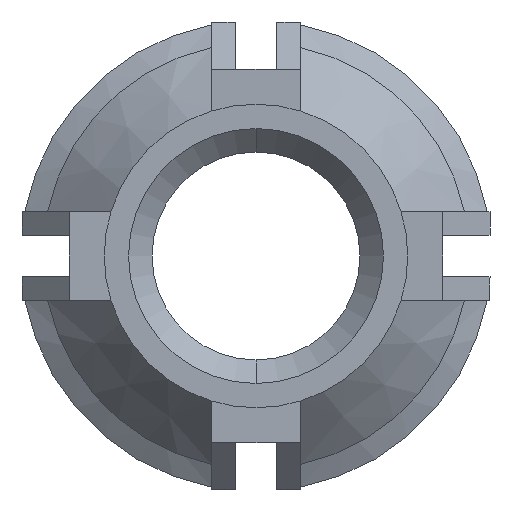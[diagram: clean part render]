
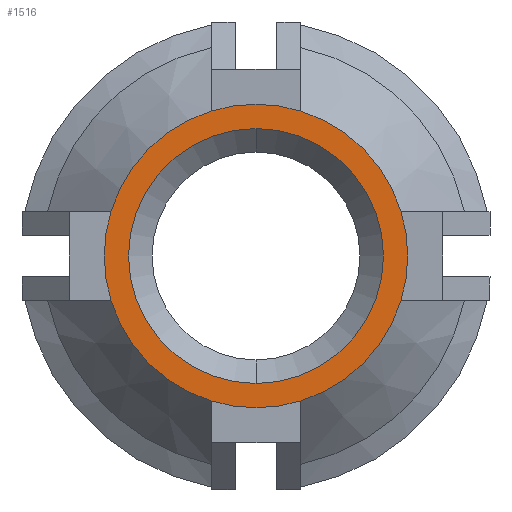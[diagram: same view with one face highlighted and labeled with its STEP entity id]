
A CAD part, front view. The second image highlights one B-rep face of the part: STEP entity #1516.
In plain terms, the highlighted planar face has unit normal (0, -1, 0).
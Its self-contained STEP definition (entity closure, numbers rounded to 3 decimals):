
#5 = DIRECTION ( 'NONE',  ( 0., -1., 0. ) ) ;
#24 = EDGE_CURVE ( 'NONE', #977, #1759, #2736, .T. ) ;
#69 = EDGE_CURVE ( 'NONE', #658, #977, #1918, .T. ) ;
#109 = DIRECTION ( 'NONE',  ( 0., 0., 1. ) ) ;
#120 = VERTEX_POINT ( 'NONE', #1002 ) ;
#137 = CARTESIAN_POINT ( 'NONE',  ( 0., -7.874, 2.15 ) ) ;
#193 = CARTESIAN_POINT ( 'NONE',  ( -2.446, -7.874, 0.75 ) ) ;
#203 = VERTEX_POINT ( 'NONE', #1003 ) ;
#213 = CARTESIAN_POINT ( 'NONE',  ( 0.75, -7.874, 2.446 ) ) ;
#220 = AXIS2_PLACEMENT_3D ( 'NONE', #2431, #3672, #3335 ) ;
#312 = CARTESIAN_POINT ( 'NONE',  ( 2.446, -7.874, 0.75 ) ) ;
#406 = AXIS2_PLACEMENT_3D ( 'NONE', #1461, #3249, #1792 ) ;
#535 = DIRECTION ( 'NONE',  ( 1., 0., 0. ) ) ;
#544 = EDGE_CURVE ( 'NONE', #1283, #1187, #1067, .T. ) ;
#568 = ORIENTED_EDGE ( 'NONE', *, *, #2275, .T. ) ;
#616 = DIRECTION ( 'NONE',  ( -1., 0., 0. ) ) ;
#637 = CARTESIAN_POINT ( 'NONE',  ( 0., -7.874, 0. ) ) ;
#658 = VERTEX_POINT ( 'NONE', #3830 ) ;
#673 = ORIENTED_EDGE ( 'NONE', *, *, #3762, .T. ) ;
#682 = EDGE_CURVE ( 'NONE', #1354, #203, #3513, .T. ) ;
#766 = PLANE ( 'NONE',  #1466 ) ;
#779 = CARTESIAN_POINT ( 'NONE',  ( 0., -7.874, 0. ) ) ;
#901 = ORIENTED_EDGE ( 'NONE', *, *, #2745, .T. ) ;
#907 = AXIS2_PLACEMENT_3D ( 'NONE', #637, #5, #616 ) ;
#947 = CARTESIAN_POINT ( 'NONE',  ( -0.75, -7.874, -2.446 ) ) ;
#977 = VERTEX_POINT ( 'NONE', #947 ) ;
#1000 = CARTESIAN_POINT ( 'NONE',  ( 0., -7.874, 0. ) ) ;
#1002 = CARTESIAN_POINT ( 'NONE',  ( 2.446, -7.874, -0.75 ) ) ;
#1003 = CARTESIAN_POINT ( 'NONE',  ( -0.75, -7.874, 2.446 ) ) ;
#1061 = CARTESIAN_POINT ( 'NONE',  ( 0., -7.874, 0. ) ) ;
#1067 = CIRCLE ( 'NONE', #1558, 2.15 ) ;
#1098 = AXIS2_PLACEMENT_3D ( 'NONE', #779, #1377, #535 ) ;
#1187 = VERTEX_POINT ( 'NONE', #137 ) ;
#1283 = VERTEX_POINT ( 'NONE', #1399 ) ;
#1335 = DIRECTION ( 'NONE',  ( 0., 0., 1. ) ) ;
#1336 = CARTESIAN_POINT ( 'NONE',  ( 0.75, -7.874, -2.446 ) ) ;
#1354 = VERTEX_POINT ( 'NONE', #213 ) ;
#1367 = FACE_OUTER_BOUND ( 'NONE', #3271, .T. ) ;
#1377 = DIRECTION ( 'NONE',  ( 0., -1., 0. ) ) ;
#1381 = DIRECTION ( 'NONE',  ( 0., -1., 0. ) ) ;
#1399 = CARTESIAN_POINT ( 'NONE',  ( 0., -7.874, -2.15 ) ) ;
#1412 = CIRCLE ( 'NONE', #1907, 2.558 ) ;
#1424 = DIRECTION ( 'NONE',  ( 0., -1., 0. ) ) ;
#1461 = CARTESIAN_POINT ( 'NONE',  ( 0., -7.874, 0. ) ) ;
#1466 = AXIS2_PLACEMENT_3D ( 'NONE', #3147, #3780, #2198 ) ;
#1471 = EDGE_CURVE ( 'NONE', #2442, #1354, #3740, .T. ) ;
#1516 = ADVANCED_FACE ( 'NONE', ( #3127, #1367 ), #766, .F. ) ;
#1536 = CIRCLE ( 'NONE', #2662, 2.15 ) ;
#1558 = AXIS2_PLACEMENT_3D ( 'NONE', #1000, #2810, #109 ) ;
#1586 = EDGE_CURVE ( 'NONE', #203, #3176, #3484, .T. ) ;
#1653 = ORIENTED_EDGE ( 'NONE', *, *, #3898, .T. ) ;
#1684 = ORIENTED_EDGE ( 'NONE', *, *, #1471, .T. ) ;
#1759 = VERTEX_POINT ( 'NONE', #1336 ) ;
#1792 = DIRECTION ( 'NONE',  ( 0., 0., -1. ) ) ;
#1814 = EDGE_LOOP ( 'NONE', ( #2573, #568 ) ) ;
#1845 = AXIS2_PLACEMENT_3D ( 'NONE', #1061, #1424, #2620 ) ;
#1907 = AXIS2_PLACEMENT_3D ( 'NONE', #3070, #2187, #1335 ) ;
#1918 = CIRCLE ( 'NONE', #220, 2.558 ) ;
#1938 = CARTESIAN_POINT ( 'NONE',  ( 0., -7.874, 0. ) ) ;
#2187 = DIRECTION ( 'NONE',  ( 0., -1., 0. ) ) ;
#2198 = DIRECTION ( 'NONE',  ( 0., 0., 1. ) ) ;
#2220 = AXIS2_PLACEMENT_3D ( 'NONE', #2755, #3038, #3365 ) ;
#2275 = EDGE_CURVE ( 'NONE', #1187, #1283, #1536, .T. ) ;
#2428 = ORIENTED_EDGE ( 'NONE', *, *, #69, .T. ) ;
#2431 = CARTESIAN_POINT ( 'NONE',  ( 0., -7.874, 0. ) ) ;
#2442 = VERTEX_POINT ( 'NONE', #312 ) ;
#2539 = DIRECTION ( 'NONE',  ( 0., 0., 1. ) ) ;
#2540 = AXIS2_PLACEMENT_3D ( 'NONE', #3465, #1381, #2539 ) ;
#2573 = ORIENTED_EDGE ( 'NONE', *, *, #544, .T. ) ;
#2620 = DIRECTION ( 'NONE',  ( 0., 0., 1. ) ) ;
#2662 = AXIS2_PLACEMENT_3D ( 'NONE', #1938, #3460, #3477 ) ;
#2736 = CIRCLE ( 'NONE', #907, 2.558 ) ;
#2745 = EDGE_CURVE ( 'NONE', #3176, #658, #3546, .T. ) ;
#2755 = CARTESIAN_POINT ( 'NONE',  ( 0., -7.874, 0. ) ) ;
#2762 = ORIENTED_EDGE ( 'NONE', *, *, #1586, .T. ) ;
#2768 = ORIENTED_EDGE ( 'NONE', *, *, #682, .T. ) ;
#2810 = DIRECTION ( 'NONE',  ( 0., 1., 0. ) ) ;
#3038 = DIRECTION ( 'NONE',  ( 0., -1., 0. ) ) ;
#3070 = CARTESIAN_POINT ( 'NONE',  ( 0., -7.874, 0. ) ) ;
#3127 = FACE_BOUND ( 'NONE', #1814, .T. ) ;
#3147 = CARTESIAN_POINT ( 'NONE',  ( 0., -7.874, 0. ) ) ;
#3154 = ORIENTED_EDGE ( 'NONE', *, *, #24, .T. ) ;
#3176 = VERTEX_POINT ( 'NONE', #193 ) ;
#3249 = DIRECTION ( 'NONE',  ( 0., -1., 0. ) ) ;
#3271 = EDGE_LOOP ( 'NONE', ( #901, #2428, #3154, #673, #1653, #1684, #2768, #2762 ) ) ;
#3335 = DIRECTION ( 'NONE',  ( 0., 0., 1. ) ) ;
#3365 = DIRECTION ( 'NONE',  ( 0., 0., 1. ) ) ;
#3460 = DIRECTION ( 'NONE',  ( 0., 1., 0. ) ) ;
#3465 = CARTESIAN_POINT ( 'NONE',  ( 0., -7.874, 0. ) ) ;
#3477 = DIRECTION ( 'NONE',  ( 0., 0., 1. ) ) ;
#3484 = CIRCLE ( 'NONE', #2540, 2.558 ) ;
#3488 = CIRCLE ( 'NONE', #406, 2.558 ) ;
#3513 = CIRCLE ( 'NONE', #1098, 2.558 ) ;
#3546 = CIRCLE ( 'NONE', #1845, 2.558 ) ;
#3672 = DIRECTION ( 'NONE',  ( 0., -1., 0. ) ) ;
#3740 = CIRCLE ( 'NONE', #2220, 2.558 ) ;
#3762 = EDGE_CURVE ( 'NONE', #1759, #120, #1412, .T. ) ;
#3780 = DIRECTION ( 'NONE',  ( 0., 1., 0. ) ) ;
#3830 = CARTESIAN_POINT ( 'NONE',  ( -2.446, -7.874, -0.75 ) ) ;
#3898 = EDGE_CURVE ( 'NONE', #120, #2442, #3488, .T. ) ;
